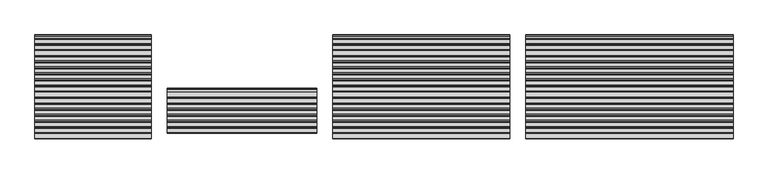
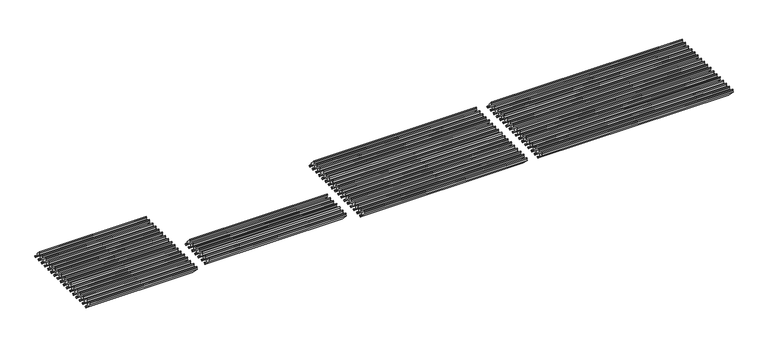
"""IFC4 building model written with IfcOpenShell, lengths in millimetres: proxy geometry, Renson_Camargue_Skye_Freestanding_Patio covers : Renson_Camargue_Skye_Freestanding_Patio covers."""

from ifc_helpers import new_model, si_unit, point, frame, frame_2d, origin, place, context, project, spatial, polyline, circle_curve, trimmed, segment, composite_curve, outline, extrude, source, transform, mapped, element, save


def generic_models_14f4a97e(model_context):
    return source(origin(), model_context, "Body", "SweptSolid", [
        extrude(outline(composite_curve([segment(polyline([(59.6564097, 2532.0835122), (77.5051073, 2553.3547618), (58.094889, 2574.7237457), (74.3098405, 2586.077577), (148.3535191, 2504.561844)]), True, "CONTINUOUS"), segment(trimmed(circle_curve(frame_2d((137.2502472, 2494.4763419)), 15.0), [point((148.3535191, 2504.561844))], [point((149.5375278, 2485.8726953))], False, "CARTESIAN"), True, "CONTINUOUS"), segment(polyline([(149.5375278, 2485.8726953), (138.3377521, 2469.8777579), (200.3763142, 2407.8391957), (214.5822882, 2417.7863257), (224.8658588, 2406.4649975), (206.8022706, 2384.9376513), (59.6564097, 2532.0835122)]), True, "CONTINUOUS")], self_intersect=False)), frame((-1079.7970473, 0.0, 0.0), z_axis=(1.0, 0.0, 0.0), x_axis=(0.0, 1.0, 0.0)), (0.0, 0.0, 1.0), 2107.0),
        extrude(outline(composite_curve([segment(polyline([(167.1672144, 2532.0835122), (185.0159121, 2553.3547618), (165.6056937, 2574.7237457), (181.8206452, 2586.077577), (255.8643239, 2504.561844)]), True, "CONTINUOUS"), segment(trimmed(circle_curve(frame_2d((244.761052, 2494.4763419)), 15.0), [point((255.8643239, 2504.561844))], [point((257.0483326, 2485.8726953))], False, "CARTESIAN"), True, "CONTINUOUS"), segment(polyline([(257.0483326, 2485.8726953), (245.8485568, 2469.8777579), (307.887119, 2407.8391957), (322.093093, 2417.7863257), (332.3766636, 2406.4649975), (314.3130754, 2384.9376513), (167.1672144, 2532.0835122)]), True, "CONTINUOUS")], self_intersect=False)), frame((-1079.7970473, 0.0, 0.0), z_axis=(1.0, 0.0, 0.0), x_axis=(0.0, 1.0, 0.0)), (0.0, 0.0, 1.0), 2107.0),
        extrude(outline(composite_curve([segment(polyline([(274.6780192, 2532.0835122), (292.5267169, 2553.3547618), (273.1164985, 2574.7237457), (289.33145, 2586.077577), (363.3751287, 2504.561844)]), True, "CONTINUOUS"), segment(trimmed(circle_curve(frame_2d((352.2718567, 2494.4763419)), 15.0), [point((363.3751287, 2504.561844))], [point((364.5591374, 2485.8726953))], False, "CARTESIAN"), True, "CONTINUOUS"), segment(polyline([(364.5591374, 2485.8726953), (353.3593616, 2469.8777579), (415.3979238, 2407.8391957), (429.6038978, 2417.7863257), (439.8874684, 2406.4649975), (421.8238801, 2384.9376513), (274.6780192, 2532.0835122)]), True, "CONTINUOUS")], self_intersect=False)), frame((-1079.7970473, 0.0, 0.0), z_axis=(1.0, 0.0, 0.0), x_axis=(0.0, 1.0, 0.0)), (0.0, 0.0, 1.0), 2107.0),
        extrude(outline(composite_curve([segment(polyline([(382.188824, 2532.0835122), (400.0375217, 2553.3547618), (380.6273033, 2574.7237457), (396.8422548, 2586.077577), (470.8859334, 2504.561844)]), True, "CONTINUOUS"), segment(trimmed(circle_curve(frame_2d((459.7826615, 2494.4763419)), 15.0), [point((470.8859334, 2504.561844))], [point((472.0699422, 2485.8726953))], False, "CARTESIAN"), True, "CONTINUOUS"), segment(polyline([(472.0699422, 2485.8726953), (460.8701664, 2469.8777579), (522.9087286, 2407.8391957), (537.1147026, 2417.7863257), (547.3982731, 2406.4649975), (529.3346849, 2384.9376513), (382.188824, 2532.0835122)]), True, "CONTINUOUS")], self_intersect=False)), frame((-1079.7970473, 0.0, 0.0), z_axis=(1.0, 0.0, 0.0), x_axis=(0.0, 1.0, 0.0)), (0.0, 0.0, 1.0), 2107.0),
        extrude(outline(composite_curve([segment(polyline([(489.6996288, 2532.0835122), (507.5483265, 2553.3547618), (488.1381081, 2574.7237457), (504.3530596, 2586.077577), (578.3967382, 2504.561844)]), True, "CONTINUOUS"), segment(trimmed(circle_curve(frame_2d((567.2934663, 2494.4763419)), 15.0), [point((578.3967382, 2504.561844))], [point((579.580747, 2485.8726953))], False, "CARTESIAN"), True, "CONTINUOUS"), segment(polyline([(579.580747, 2485.8726953), (568.3809712, 2469.8777579), (630.4195334, 2407.8391957), (644.6255074, 2417.7863257), (654.9090779, 2406.4649975), (636.8454897, 2384.9376513), (489.6996288, 2532.0835122)]), True, "CONTINUOUS")], self_intersect=False)), frame((-1079.7970473, 0.0, 0.0), z_axis=(1.0, 0.0, 0.0), x_axis=(0.0, 1.0, 0.0)), (0.0, 0.0, 1.0), 2107.0),
        extrude(outline(composite_curve([segment(polyline([(597.2104336, 2532.0835122), (615.0591312, 2553.3547618), (595.6489129, 2574.7237457), (611.8638644, 2586.077577), (685.907543, 2504.561844)]), True, "CONTINUOUS"), segment(trimmed(circle_curve(frame_2d((674.8042711, 2494.4763419)), 15.0), [point((685.907543, 2504.561844))], [point((687.0915518, 2485.8726953))], False, "CARTESIAN"), True, "CONTINUOUS"), segment(polyline([(687.0915518, 2485.8726953), (675.891776, 2469.8777579), (737.9303382, 2407.8391957), (752.1363121, 2417.7863257), (762.4198827, 2406.4649975), (744.3562945, 2384.9376513), (597.2104336, 2532.0835122)]), True, "CONTINUOUS")], self_intersect=False)), frame((-1079.7970473, 0.0, 0.0), z_axis=(1.0, 0.0, 0.0), x_axis=(0.0, 1.0, 0.0)), (0.0, 0.0, 1.0), 2107.0),
        extrude(outline(composite_curve([segment(polyline([(704.7212384, 2532.0835122), (722.569936, 2553.3547618), (703.1597177, 2574.7237457), (719.3746691, 2586.077577), (793.4183478, 2504.561844)]), True, "CONTINUOUS"), segment(trimmed(circle_curve(frame_2d((782.3150759, 2494.4763419)), 15.0), [point((793.4183478, 2504.561844))], [point((794.6023565, 2485.8726953))], False, "CARTESIAN"), True, "CONTINUOUS"), segment(polyline([(794.6023565, 2485.8726953), (783.4025807, 2469.8777579), (845.4411429, 2407.8391957), (859.6471169, 2417.7863257), (869.9306875, 2406.4649975), (851.8670993, 2384.9376513), (704.7212384, 2532.0835122)]), True, "CONTINUOUS")], self_intersect=False)), frame((-1079.7970473, 0.0, 0.0), z_axis=(1.0, 0.0, 0.0), x_axis=(0.0, 1.0, 0.0)), (0.0, 0.0, 1.0), 2107.0),
        extrude(outline(composite_curve([segment(polyline([(812.2320431, 2532.0835122), (830.0807408, 2553.3547618), (810.6705224, 2574.7237457), (826.8854739, 2586.077577), (900.9291526, 2504.561844)]), True, "CONTINUOUS"), segment(trimmed(circle_curve(frame_2d((889.8258807, 2494.4763419)), 15.0), [point((900.9291526, 2504.561844))], [point((902.1131613, 2485.8726953))], False, "CARTESIAN"), True, "CONTINUOUS"), segment(polyline([(902.1131613, 2485.8726953), (890.9133855, 2469.8777579), (952.9519477, 2407.8391957), (967.1579217, 2417.7863257), (977.4414923, 2406.4649975), (959.3779041, 2384.9376513), (812.2320431, 2532.0835122)]), True, "CONTINUOUS")], self_intersect=False)), frame((-1079.7970473, 0.0, 0.0), z_axis=(1.0, 0.0, 0.0), x_axis=(0.0, 1.0, 0.0)), (0.0, 0.0, 1.0), 2107.0),
        extrude(outline(composite_curve([segment(polyline([(919.7428479, 2532.0835122), (937.5915456, 2553.3547618), (918.1813272, 2574.7237457), (934.3962787, 2586.077577), (1008.4399574, 2504.561844)]), True, "CONTINUOUS"), segment(trimmed(circle_curve(frame_2d((997.3366854, 2494.4763419)), 15.0), [point((1008.4399574, 2504.561844))], [point((1009.6239661, 2485.8726953))], False, "CARTESIAN"), True, "CONTINUOUS"), segment(polyline([(1009.6239661, 2485.8726953), (998.4241903, 2469.8777579), (1060.4627525, 2407.8391957), (1074.6687265, 2417.7863257), (1084.9522971, 2406.4649975), (1066.8887088, 2384.9376513), (919.7428479, 2532.0835122)]), True, "CONTINUOUS")], self_intersect=False)), frame((-1079.7970473, 0.0, 0.0), z_axis=(1.0, 0.0, 0.0), x_axis=(0.0, 1.0, 0.0)), (0.0, 0.0, 1.0), 2107.0),
        extrude(outline(composite_curve([segment(polyline([(1027.2536527, 2532.0835122), (1045.1023504, 2553.3547618), (1025.692132, 2574.7237457), (1041.9070835, 2586.077577), (1115.9507621, 2504.561844)]), True, "CONTINUOUS"), segment(trimmed(circle_curve(frame_2d((1104.8474902, 2494.4763419)), 15.0), [point((1115.9507621, 2504.561844))], [point((1117.1347709, 2485.8726953))], False, "CARTESIAN"), True, "CONTINUOUS"), segment(polyline([(1117.1347709, 2485.8726953), (1105.9349951, 2469.8777579), (1167.9735573, 2407.8391957), (1182.1795313, 2417.7863257), (1192.4631018, 2406.4649975), (1174.3995136, 2384.9376513), (1027.2536527, 2532.0835122)]), True, "CONTINUOUS")], self_intersect=False)), frame((-1079.7970473, 0.0, 0.0), z_axis=(1.0, 0.0, 0.0), x_axis=(0.0, 1.0, 0.0)), (0.0, 0.0, 1.0), 2107.0),
        extrude(outline(composite_curve([segment(polyline([(1134.7644575, 2532.0835122), (1152.6131551, 2553.3547618), (1133.2029368, 2574.7237457), (1149.4178883, 2586.077577), (1223.4615669, 2504.561844)]), True, "CONTINUOUS"), segment(trimmed(circle_curve(frame_2d((1212.358295, 2494.4763419)), 15.0), [point((1223.4615669, 2504.561844))], [point((1224.6455757, 2485.8726953))], False, "CARTESIAN"), True, "CONTINUOUS"), segment(polyline([(1224.6455757, 2485.8726953), (1213.4457999, 2469.8777579), (1275.4843621, 2407.8391957), (1289.6903361, 2417.7863257), (1299.9739066, 2406.4649975), (1281.9103184, 2384.9376513), (1134.7644575, 2532.0835122)]), True, "CONTINUOUS")], self_intersect=False)), frame((-1079.7970473, 0.0, 0.0), z_axis=(1.0, 0.0, 0.0), x_axis=(0.0, 1.0, 0.0)), (0.0, 0.0, 1.0), 2107.0),
        extrude(outline(composite_curve([segment(polyline([(1242.2752623, 2532.0835122), (1260.1239599, 2553.3547618), (1240.7137416, 2574.7237457), (1256.9286931, 2586.077577), (1330.9723717, 2504.561844)]), True, "CONTINUOUS"), segment(trimmed(circle_curve(frame_2d((1319.8690998, 2494.4763419)), 15.0), [point((1330.9723717, 2504.561844))], [point((1332.1563804, 2485.8726953))], False, "CARTESIAN"), True, "CONTINUOUS"), segment(polyline([(1332.1563804, 2485.8726953), (1320.9566047, 2469.8777579), (1382.9951668, 2407.8391957), (1397.2011408, 2417.7863257), (1407.4847114, 2406.4649975), (1389.4211232, 2384.9376513), (1242.2752623, 2532.0835122)]), True, "CONTINUOUS")], self_intersect=False)), frame((-1079.7970473, 0.0, 0.0), z_axis=(1.0, 0.0, 0.0), x_axis=(0.0, 1.0, 0.0)), (0.0, 0.0, 1.0), 2107.0),
        extrude(outline(composite_curve([segment(polyline([(1349.786067, 2532.0835122), (1367.6347647, 2553.3547618), (1348.2245463, 2574.7237457), (1364.4394978, 2586.077577), (1438.4831765, 2504.561844)]), True, "CONTINUOUS"), segment(trimmed(circle_curve(frame_2d((1427.3799046, 2494.4763419)), 15.0), [point((1438.4831765, 2504.561844))], [point((1439.6671852, 2485.8726953))], False, "CARTESIAN"), True, "CONTINUOUS"), segment(polyline([(1439.6671852, 2485.8726953), (1428.4674094, 2469.8777579), (1490.5059716, 2407.8391957), (1504.7119456, 2417.7863257), (1514.9955162, 2406.4649975), (1496.931928, 2384.9376513), (1349.786067, 2532.0835122)]), True, "CONTINUOUS")], self_intersect=False)), frame((-1079.7970473, 0.0, 0.0), z_axis=(1.0, 0.0, 0.0), x_axis=(0.0, 1.0, 0.0)), (0.0, 0.0, 1.0), 2107.0),
        extrude(outline(composite_curve([segment(polyline([(1457.2968718, 2532.0835122), (1475.1455695, 2553.3547618), (1455.7353511, 2574.7237457), (1471.9503026, 2586.077577), (1545.9939813, 2504.561844)]), True, "CONTINUOUS"), segment(trimmed(circle_curve(frame_2d((1534.8907093, 2494.4763419)), 15.0), [point((1545.9939813, 2504.561844))], [point((1547.17799, 2485.8726953))], False, "CARTESIAN"), True, "CONTINUOUS"), segment(polyline([(1547.17799, 2485.8726953), (1535.9782142, 2469.8777579), (1598.0167764, 2407.8391957), (1612.2227504, 2417.7863257), (1622.506321, 2406.4649975), (1604.4427327, 2384.9376513), (1457.2968718, 2532.0835122)]), True, "CONTINUOUS")], self_intersect=False)), frame((-1079.7970473, 0.0, 0.0), z_axis=(1.0, 0.0, 0.0), x_axis=(0.0, 1.0, 0.0)), (0.0, 0.0, 1.0), 2107.0),
        extrude(outline(composite_curve([segment(polyline([(1564.8076766, 2532.0835122), (1582.6563743, 2553.3547618), (1563.2461559, 2574.7237457), (1579.4611074, 2586.077577), (1653.504786, 2504.561844)]), True, "CONTINUOUS"), segment(trimmed(circle_curve(frame_2d((1642.4015141, 2494.4763419)), 15.0), [point((1653.504786, 2504.561844))], [point((1654.6887948, 2485.8726953))], False, "CARTESIAN"), True, "CONTINUOUS"), segment(polyline([(1654.6887948, 2485.8726953), (1643.489019, 2469.8777579), (1705.5275812, 2407.8391957), (1719.7335552, 2417.7863257), (1730.0171257, 2406.4649975), (1711.9535375, 2384.9376513), (1564.8076766, 2532.0835122)]), True, "CONTINUOUS")], self_intersect=False)), frame((-1079.7970473, 0.0, 0.0), z_axis=(1.0, 0.0, 0.0), x_axis=(0.0, 1.0, 0.0)), (0.0, 0.0, 1.0), 2107.0),
        extrude(outline(composite_curve([segment(polyline([(-47.8543951, 2532.0835122), (-30.0056975, 2553.3547618), (-49.4159158, 2574.7237457), (-33.2009643, 2586.077577), (40.8427143, 2504.561844)]), True, "CONTINUOUS"), segment(trimmed(circle_curve(frame_2d((29.7394424, 2494.4763419)), 15.0), [point((40.8427143, 2504.561844))], [point((42.0267231, 2485.8726953))], False, "CARTESIAN"), True, "CONTINUOUS"), segment(polyline([(42.0267231, 2485.8726953), (30.8269473, 2469.8777579), (92.8655095, 2407.8391957), (107.0714835, 2417.7863257), (117.355054, 2406.4649975), (99.2914658, 2384.9376513), (-47.8543951, 2532.0835122)]), True, "CONTINUOUS")], self_intersect=False)), frame((-1079.7970473, 0.0, 0.0), z_axis=(1.0, 0.0, 0.0), x_axis=(0.0, 1.0, 0.0)), (0.0, 0.0, 1.0), 2107.0),
        extrude(outline(composite_curve([segment(polyline([(1672.3184814, 2532.0835122), (1690.1671791, 2553.3547618), (1670.7569607, 2574.7237457), (1686.9719122, 2586.077577), (1761.0155908, 2504.561844)]), True, "CONTINUOUS"), segment(trimmed(circle_curve(frame_2d((1749.9123189, 2494.4763419)), 15.0), [point((1761.0155908, 2504.561844))], [point((1762.1995996, 2485.8726953))], False, "CARTESIAN"), True, "CONTINUOUS"), segment(polyline([(1762.1995996, 2485.8726953), (1750.9998238, 2469.8777579), (1813.038386, 2407.8391957), (1827.24436, 2417.7863257), (1837.5279305, 2406.4649975), (1819.4643423, 2384.9376513), (1672.3184814, 2532.0835122)]), True, "CONTINUOUS")], self_intersect=False)), frame((-1079.7970473, 0.0, 0.0), z_axis=(1.0, 0.0, 0.0), x_axis=(0.0, 1.0, 0.0)), (0.0, 0.0, 1.0), 2107.0),
        extrude(outline(composite_curve([segment(polyline([(59.6564097, 2532.0835122), (77.5051073, 2553.3547618), (58.094889, 2574.7237457), (74.3098405, 2586.077577), (148.3535191, 2504.561844)]), True, "CONTINUOUS"), segment(trimmed(circle_curve(frame_2d((137.2502472, 2494.4763419)), 15.0), [point((148.3535191, 2504.561844))], [point((149.5375278, 2485.8726953))], False, "CARTESIAN"), True, "CONTINUOUS"), segment(polyline([(149.5375278, 2485.8726953), (138.3377521, 2469.8777579), (200.3763142, 2407.8391957), (214.5822882, 2417.7863257), (224.8658588, 2406.4649975), (206.8022706, 2384.9376513), (59.6564097, 2532.0835122)]), True, "CONTINUOUS")], self_intersect=False)), frame((7823.0, 0.0, 0.0), z_axis=(1.0, 0.0, 0.0), x_axis=(0.0, 1.0, 0.0)), (0.0, 0.0, 1.0), 3757.0),
        extrude(outline(composite_curve([segment(polyline([(167.1672144, 2532.0835122), (185.0159121, 2553.3547618), (165.6056937, 2574.7237457), (181.8206452, 2586.077577), (255.8643239, 2504.561844)]), True, "CONTINUOUS"), segment(trimmed(circle_curve(frame_2d((244.761052, 2494.4763419)), 15.0), [point((255.8643239, 2504.561844))], [point((257.0483326, 2485.8726953))], False, "CARTESIAN"), True, "CONTINUOUS"), segment(polyline([(257.0483326, 2485.8726953), (245.8485568, 2469.8777579), (307.887119, 2407.8391957), (322.093093, 2417.7863257), (332.3766636, 2406.4649975), (314.3130754, 2384.9376513), (167.1672144, 2532.0835122)]), True, "CONTINUOUS")], self_intersect=False)), frame((7823.0, 0.0, 0.0), z_axis=(1.0, 0.0, 0.0), x_axis=(0.0, 1.0, 0.0)), (0.0, 0.0, 1.0), 3757.0),
        extrude(outline(composite_curve([segment(polyline([(274.6780192, 2532.0835122), (292.5267169, 2553.3547618), (273.1164985, 2574.7237457), (289.33145, 2586.077577), (363.3751287, 2504.561844)]), True, "CONTINUOUS"), segment(trimmed(circle_curve(frame_2d((352.2718567, 2494.4763419)), 15.0), [point((363.3751287, 2504.561844))], [point((364.5591374, 2485.8726953))], False, "CARTESIAN"), True, "CONTINUOUS"), segment(polyline([(364.5591374, 2485.8726953), (353.3593616, 2469.8777579), (415.3979238, 2407.8391957), (429.6038978, 2417.7863257), (439.8874684, 2406.4649975), (421.8238801, 2384.9376513), (274.6780192, 2532.0835122)]), True, "CONTINUOUS")], self_intersect=False)), frame((7823.0, 0.0, 0.0), z_axis=(1.0, 0.0, 0.0), x_axis=(0.0, 1.0, 0.0)), (0.0, 0.0, 1.0), 3757.0),
        extrude(outline(composite_curve([segment(polyline([(382.188824, 2532.0835122), (400.0375217, 2553.3547618), (380.6273033, 2574.7237457), (396.8422548, 2586.077577), (470.8859334, 2504.561844)]), True, "CONTINUOUS"), segment(trimmed(circle_curve(frame_2d((459.7826615, 2494.4763419)), 15.0), [point((470.8859334, 2504.561844))], [point((472.0699422, 2485.8726953))], False, "CARTESIAN"), True, "CONTINUOUS"), segment(polyline([(472.0699422, 2485.8726953), (460.8701664, 2469.8777579), (522.9087286, 2407.8391957), (537.1147026, 2417.7863257), (547.3982731, 2406.4649975), (529.3346849, 2384.9376513), (382.188824, 2532.0835122)]), True, "CONTINUOUS")], self_intersect=False)), frame((7823.0, 0.0, 0.0), z_axis=(1.0, 0.0, 0.0), x_axis=(0.0, 1.0, 0.0)), (0.0, 0.0, 1.0), 3757.0),
        extrude(outline(composite_curve([segment(polyline([(489.6996288, 2532.0835122), (507.5483265, 2553.3547618), (488.1381081, 2574.7237457), (504.3530596, 2586.077577), (578.3967382, 2504.561844)]), True, "CONTINUOUS"), segment(trimmed(circle_curve(frame_2d((567.2934663, 2494.4763419)), 15.0), [point((578.3967382, 2504.561844))], [point((579.580747, 2485.8726953))], False, "CARTESIAN"), True, "CONTINUOUS"), segment(polyline([(579.580747, 2485.8726953), (568.3809712, 2469.8777579), (630.4195334, 2407.8391957), (644.6255074, 2417.7863257), (654.9090779, 2406.4649975), (636.8454897, 2384.9376513), (489.6996288, 2532.0835122)]), True, "CONTINUOUS")], self_intersect=False)), frame((7823.0, 0.0, 0.0), z_axis=(1.0, 0.0, 0.0), x_axis=(0.0, 1.0, 0.0)), (0.0, 0.0, 1.0), 3757.0),
        extrude(outline(composite_curve([segment(polyline([(597.2104336, 2532.0835122), (615.0591312, 2553.3547618), (595.6489129, 2574.7237457), (611.8638644, 2586.077577), (685.907543, 2504.561844)]), True, "CONTINUOUS"), segment(trimmed(circle_curve(frame_2d((674.8042711, 2494.4763419)), 15.0), [point((685.907543, 2504.561844))], [point((687.0915518, 2485.8726953))], False, "CARTESIAN"), True, "CONTINUOUS"), segment(polyline([(687.0915518, 2485.8726953), (675.891776, 2469.8777579), (737.9303382, 2407.8391957), (752.1363121, 2417.7863257), (762.4198827, 2406.4649975), (744.3562945, 2384.9376513), (597.2104336, 2532.0835122)]), True, "CONTINUOUS")], self_intersect=False)), frame((7823.0, 0.0, 0.0), z_axis=(1.0, 0.0, 0.0), x_axis=(0.0, 1.0, 0.0)), (0.0, 0.0, 1.0), 3757.0),
        extrude(outline(composite_curve([segment(polyline([(704.7212384, 2532.0835122), (722.569936, 2553.3547618), (703.1597177, 2574.7237457), (719.3746691, 2586.077577), (793.4183478, 2504.561844)]), True, "CONTINUOUS"), segment(trimmed(circle_curve(frame_2d((782.3150759, 2494.4763419)), 15.0), [point((793.4183478, 2504.561844))], [point((794.6023565, 2485.8726953))], False, "CARTESIAN"), True, "CONTINUOUS"), segment(polyline([(794.6023565, 2485.8726953), (783.4025807, 2469.8777579), (845.4411429, 2407.8391957), (859.6471169, 2417.7863257), (869.9306875, 2406.4649975), (851.8670993, 2384.9376513), (704.7212384, 2532.0835122)]), True, "CONTINUOUS")], self_intersect=False)), frame((7823.0, 0.0, 0.0), z_axis=(1.0, 0.0, 0.0), x_axis=(0.0, 1.0, 0.0)), (0.0, 0.0, 1.0), 3757.0),
        extrude(outline(composite_curve([segment(polyline([(812.2320431, 2532.0835122), (830.0807408, 2553.3547618), (810.6705224, 2574.7237457), (826.8854739, 2586.077577), (900.9291526, 2504.561844)]), True, "CONTINUOUS"), segment(trimmed(circle_curve(frame_2d((889.8258807, 2494.4763419)), 15.0), [point((900.9291526, 2504.561844))], [point((902.1131613, 2485.8726953))], False, "CARTESIAN"), True, "CONTINUOUS"), segment(polyline([(902.1131613, 2485.8726953), (890.9133855, 2469.8777579), (952.9519477, 2407.8391957), (967.1579217, 2417.7863257), (977.4414923, 2406.4649975), (959.3779041, 2384.9376513), (812.2320431, 2532.0835122)]), True, "CONTINUOUS")], self_intersect=False)), frame((7823.0, 0.0, 0.0), z_axis=(1.0, 0.0, 0.0), x_axis=(0.0, 1.0, 0.0)), (0.0, 0.0, 1.0), 3757.0),
        extrude(outline(composite_curve([segment(polyline([(919.7428479, 2532.0835122), (937.5915456, 2553.3547618), (918.1813272, 2574.7237457), (934.3962787, 2586.077577), (1008.4399574, 2504.561844)]), True, "CONTINUOUS"), segment(trimmed(circle_curve(frame_2d((997.3366854, 2494.4763419)), 15.0), [point((1008.4399574, 2504.561844))], [point((1009.6239661, 2485.8726953))], False, "CARTESIAN"), True, "CONTINUOUS"), segment(polyline([(1009.6239661, 2485.8726953), (998.4241903, 2469.8777579), (1060.4627525, 2407.8391957), (1074.6687265, 2417.7863257), (1084.9522971, 2406.4649975), (1066.8887088, 2384.9376513), (919.7428479, 2532.0835122)]), True, "CONTINUOUS")], self_intersect=False)), frame((7823.0, 0.0, 0.0), z_axis=(1.0, 0.0, 0.0), x_axis=(0.0, 1.0, 0.0)), (0.0, 0.0, 1.0), 3757.0),
        extrude(outline(composite_curve([segment(polyline([(1027.2536527, 2532.0835122), (1045.1023504, 2553.3547618), (1025.692132, 2574.7237457), (1041.9070835, 2586.077577), (1115.9507621, 2504.561844)]), True, "CONTINUOUS"), segment(trimmed(circle_curve(frame_2d((1104.8474902, 2494.4763419)), 15.0), [point((1115.9507621, 2504.561844))], [point((1117.1347709, 2485.8726953))], False, "CARTESIAN"), True, "CONTINUOUS"), segment(polyline([(1117.1347709, 2485.8726953), (1105.9349951, 2469.8777579), (1167.9735573, 2407.8391957), (1182.1795313, 2417.7863257), (1192.4631018, 2406.4649975), (1174.3995136, 2384.9376513), (1027.2536527, 2532.0835122)]), True, "CONTINUOUS")], self_intersect=False)), frame((7823.0, 0.0, 0.0), z_axis=(1.0, 0.0, 0.0), x_axis=(0.0, 1.0, 0.0)), (0.0, 0.0, 1.0), 3757.0),
        extrude(outline(composite_curve([segment(polyline([(1134.7644575, 2532.0835122), (1152.6131551, 2553.3547618), (1133.2029368, 2574.7237457), (1149.4178883, 2586.077577), (1223.4615669, 2504.561844)]), True, "CONTINUOUS"), segment(trimmed(circle_curve(frame_2d((1212.358295, 2494.4763419)), 15.0), [point((1223.4615669, 2504.561844))], [point((1224.6455757, 2485.8726953))], False, "CARTESIAN"), True, "CONTINUOUS"), segment(polyline([(1224.6455757, 2485.8726953), (1213.4457999, 2469.8777579), (1275.4843621, 2407.8391957), (1289.6903361, 2417.7863257), (1299.9739066, 2406.4649975), (1281.9103184, 2384.9376513), (1134.7644575, 2532.0835122)]), True, "CONTINUOUS")], self_intersect=False)), frame((7823.0, 0.0, 0.0), z_axis=(1.0, 0.0, 0.0), x_axis=(0.0, 1.0, 0.0)), (0.0, 0.0, 1.0), 3757.0),
        extrude(outline(composite_curve([segment(polyline([(1242.2752623, 2532.0835122), (1260.1239599, 2553.3547618), (1240.7137416, 2574.7237457), (1256.9286931, 2586.077577), (1330.9723717, 2504.561844)]), True, "CONTINUOUS"), segment(trimmed(circle_curve(frame_2d((1319.8690998, 2494.4763419)), 15.0), [point((1330.9723717, 2504.561844))], [point((1332.1563804, 2485.8726953))], False, "CARTESIAN"), True, "CONTINUOUS"), segment(polyline([(1332.1563804, 2485.8726953), (1320.9566047, 2469.8777579), (1382.9951668, 2407.8391957), (1397.2011408, 2417.7863257), (1407.4847114, 2406.4649975), (1389.4211232, 2384.9376513), (1242.2752623, 2532.0835122)]), True, "CONTINUOUS")], self_intersect=False)), frame((7823.0, 0.0, 0.0), z_axis=(1.0, 0.0, 0.0), x_axis=(0.0, 1.0, 0.0)), (0.0, 0.0, 1.0), 3757.0),
        extrude(outline(composite_curve([segment(polyline([(1349.786067, 2532.0835122), (1367.6347647, 2553.3547618), (1348.2245463, 2574.7237457), (1364.4394978, 2586.077577), (1438.4831765, 2504.561844)]), True, "CONTINUOUS"), segment(trimmed(circle_curve(frame_2d((1427.3799046, 2494.4763419)), 15.0), [point((1438.4831765, 2504.561844))], [point((1439.6671852, 2485.8726953))], False, "CARTESIAN"), True, "CONTINUOUS"), segment(polyline([(1439.6671852, 2485.8726953), (1428.4674094, 2469.8777579), (1490.5059716, 2407.8391957), (1504.7119456, 2417.7863257), (1514.9955162, 2406.4649975), (1496.931928, 2384.9376513), (1349.786067, 2532.0835122)]), True, "CONTINUOUS")], self_intersect=False)), frame((7823.0, 0.0, 0.0), z_axis=(1.0, 0.0, 0.0), x_axis=(0.0, 1.0, 0.0)), (0.0, 0.0, 1.0), 3757.0),
        extrude(outline(composite_curve([segment(polyline([(1457.2968718, 2532.0835122), (1475.1455695, 2553.3547618), (1455.7353511, 2574.7237457), (1471.9503026, 2586.077577), (1545.9939813, 2504.561844)]), True, "CONTINUOUS"), segment(trimmed(circle_curve(frame_2d((1534.8907093, 2494.4763419)), 15.0), [point((1545.9939813, 2504.561844))], [point((1547.17799, 2485.8726953))], False, "CARTESIAN"), True, "CONTINUOUS"), segment(polyline([(1547.17799, 2485.8726953), (1535.9782142, 2469.8777579), (1598.0167764, 2407.8391957), (1612.2227504, 2417.7863257), (1622.506321, 2406.4649975), (1604.4427327, 2384.9376513), (1457.2968718, 2532.0835122)]), True, "CONTINUOUS")], self_intersect=False)), frame((7823.0, 0.0, 0.0), z_axis=(1.0, 0.0, 0.0), x_axis=(0.0, 1.0, 0.0)), (0.0, 0.0, 1.0), 3757.0),
        extrude(outline(composite_curve([segment(polyline([(1564.8076766, 2532.0835122), (1582.6563743, 2553.3547618), (1563.2461559, 2574.7237457), (1579.4611074, 2586.077577), (1653.504786, 2504.561844)]), True, "CONTINUOUS"), segment(trimmed(circle_curve(frame_2d((1642.4015141, 2494.4763419)), 15.0), [point((1653.504786, 2504.561844))], [point((1654.6887948, 2485.8726953))], False, "CARTESIAN"), True, "CONTINUOUS"), segment(polyline([(1654.6887948, 2485.8726953), (1643.489019, 2469.8777579), (1705.5275812, 2407.8391957), (1719.7335552, 2417.7863257), (1730.0171257, 2406.4649975), (1711.9535375, 2384.9376513), (1564.8076766, 2532.0835122)]), True, "CONTINUOUS")], self_intersect=False)), frame((7823.0, 0.0, 0.0), z_axis=(1.0, 0.0, 0.0), x_axis=(0.0, 1.0, 0.0)), (0.0, 0.0, 1.0), 3757.0),
        extrude(outline(composite_curve([segment(polyline([(-47.8543951, 2532.0835122), (-30.0056975, 2553.3547618), (-49.4159158, 2574.7237457), (-33.2009643, 2586.077577), (40.8427143, 2504.561844)]), True, "CONTINUOUS"), segment(trimmed(circle_curve(frame_2d((29.7394424, 2494.4763419)), 15.0), [point((40.8427143, 2504.561844))], [point((42.0267231, 2485.8726953))], False, "CARTESIAN"), True, "CONTINUOUS"), segment(polyline([(42.0267231, 2485.8726953), (30.8269473, 2469.8777579), (92.8655095, 2407.8391957), (107.0714835, 2417.7863257), (117.355054, 2406.4649975), (99.2914658, 2384.9376513), (-47.8543951, 2532.0835122)]), True, "CONTINUOUS")], self_intersect=False)), frame((7823.0, 0.0, 0.0), z_axis=(1.0, 0.0, 0.0), x_axis=(0.0, 1.0, 0.0)), (0.0, 0.0, 1.0), 3757.0),
        extrude(outline(composite_curve([segment(polyline([(1672.3184814, 2532.0835122), (1690.1671791, 2553.3547618), (1670.7569607, 2574.7237457), (1686.9719122, 2586.077577), (1761.0155908, 2504.561844)]), True, "CONTINUOUS"), segment(trimmed(circle_curve(frame_2d((1749.9123189, 2494.4763419)), 15.0), [point((1761.0155908, 2504.561844))], [point((1762.1995996, 2485.8726953))], False, "CARTESIAN"), True, "CONTINUOUS"), segment(polyline([(1762.1995996, 2485.8726953), (1750.9998238, 2469.8777579), (1813.038386, 2407.8391957), (1827.24436, 2417.7863257), (1837.5279305, 2406.4649975), (1819.4643423, 2384.9376513), (1672.3184814, 2532.0835122)]), True, "CONTINUOUS")], self_intersect=False)), frame((7823.0, 0.0, 0.0), z_axis=(1.0, 0.0, 0.0), x_axis=(0.0, 1.0, 0.0)), (0.0, 0.0, 1.0), 3757.0),
        extrude(outline(composite_curve([segment(polyline([(59.6564097, 2532.0835122), (77.5051073, 2553.3547618), (58.094889, 2574.7237457), (74.3098405, 2586.077577), (148.3535191, 2504.561844)]), True, "CONTINUOUS"), segment(trimmed(circle_curve(frame_2d((137.2502472, 2494.4763419)), 15.0), [point((148.3535191, 2504.561844))], [point((149.5375278, 2485.8726953))], False, "CARTESIAN"), True, "CONTINUOUS"), segment(polyline([(149.5375278, 2485.8726953), (138.3377521, 2469.8777579), (200.3763142, 2407.8391957), (214.5822882, 2417.7863257), (224.8658588, 2406.4649975), (206.8022706, 2384.9376513), (59.6564097, 2532.0835122)]), True, "CONTINUOUS")], self_intersect=False)), frame((4323.0, 0.0, 0.0), z_axis=(1.0, 0.0, 0.0), x_axis=(0.0, 1.0, 0.0)), (0.0, 0.0, 1.0), 3205.0),
        extrude(outline(composite_curve([segment(polyline([(167.1672144, 2532.0835122), (185.0159121, 2553.3547618), (165.6056937, 2574.7237457), (181.8206452, 2586.077577), (255.8643239, 2504.561844)]), True, "CONTINUOUS"), segment(trimmed(circle_curve(frame_2d((244.761052, 2494.4763419)), 15.0), [point((255.8643239, 2504.561844))], [point((257.0483326, 2485.8726953))], False, "CARTESIAN"), True, "CONTINUOUS"), segment(polyline([(257.0483326, 2485.8726953), (245.8485568, 2469.8777579), (307.887119, 2407.8391957), (322.093093, 2417.7863257), (332.3766636, 2406.4649975), (314.3130754, 2384.9376513), (167.1672144, 2532.0835122)]), True, "CONTINUOUS")], self_intersect=False)), frame((4323.0, 0.0, 0.0), z_axis=(1.0, 0.0, 0.0), x_axis=(0.0, 1.0, 0.0)), (0.0, 0.0, 1.0), 3205.0),
        extrude(outline(composite_curve([segment(polyline([(274.6780192, 2532.0835122), (292.5267169, 2553.3547618), (273.1164985, 2574.7237457), (289.33145, 2586.077577), (363.3751287, 2504.561844)]), True, "CONTINUOUS"), segment(trimmed(circle_curve(frame_2d((352.2718567, 2494.4763419)), 15.0), [point((363.3751287, 2504.561844))], [point((364.5591374, 2485.8726953))], False, "CARTESIAN"), True, "CONTINUOUS"), segment(polyline([(364.5591374, 2485.8726953), (353.3593616, 2469.8777579), (415.3979238, 2407.8391957), (429.6038978, 2417.7863257), (439.8874684, 2406.4649975), (421.8238801, 2384.9376513), (274.6780192, 2532.0835122)]), True, "CONTINUOUS")], self_intersect=False)), frame((4323.0, 0.0, 0.0), z_axis=(1.0, 0.0, 0.0), x_axis=(0.0, 1.0, 0.0)), (0.0, 0.0, 1.0), 3205.0),
        extrude(outline(composite_curve([segment(polyline([(382.188824, 2532.0835122), (400.0375217, 2553.3547618), (380.6273033, 2574.7237457), (396.8422548, 2586.077577), (470.8859334, 2504.561844)]), True, "CONTINUOUS"), segment(trimmed(circle_curve(frame_2d((459.7826615, 2494.4763419)), 15.0), [point((470.8859334, 2504.561844))], [point((472.0699422, 2485.8726953))], False, "CARTESIAN"), True, "CONTINUOUS"), segment(polyline([(472.0699422, 2485.8726953), (460.8701664, 2469.8777579), (522.9087286, 2407.8391957), (537.1147026, 2417.7863257), (547.3982731, 2406.4649975), (529.3346849, 2384.9376513), (382.188824, 2532.0835122)]), True, "CONTINUOUS")], self_intersect=False)), frame((4323.0, 0.0, 0.0), z_axis=(1.0, 0.0, 0.0), x_axis=(0.0, 1.0, 0.0)), (0.0, 0.0, 1.0), 3205.0),
        extrude(outline(composite_curve([segment(polyline([(489.6996288, 2532.0835122), (507.5483265, 2553.3547618), (488.1381081, 2574.7237457), (504.3530596, 2586.077577), (578.3967382, 2504.561844)]), True, "CONTINUOUS"), segment(trimmed(circle_curve(frame_2d((567.2934663, 2494.4763419)), 15.0), [point((578.3967382, 2504.561844))], [point((579.580747, 2485.8726953))], False, "CARTESIAN"), True, "CONTINUOUS"), segment(polyline([(579.580747, 2485.8726953), (568.3809712, 2469.8777579), (630.4195334, 2407.8391957), (644.6255074, 2417.7863257), (654.9090779, 2406.4649975), (636.8454897, 2384.9376513), (489.6996288, 2532.0835122)]), True, "CONTINUOUS")], self_intersect=False)), frame((4323.0, 0.0, 0.0), z_axis=(1.0, 0.0, 0.0), x_axis=(0.0, 1.0, 0.0)), (0.0, 0.0, 1.0), 3205.0),
        extrude(outline(composite_curve([segment(polyline([(597.2104336, 2532.0835122), (615.0591312, 2553.3547618), (595.6489129, 2574.7237457), (611.8638644, 2586.077577), (685.907543, 2504.561844)]), True, "CONTINUOUS"), segment(trimmed(circle_curve(frame_2d((674.8042711, 2494.4763419)), 15.0), [point((685.907543, 2504.561844))], [point((687.0915518, 2485.8726953))], False, "CARTESIAN"), True, "CONTINUOUS"), segment(polyline([(687.0915518, 2485.8726953), (675.891776, 2469.8777579), (737.9303382, 2407.8391957), (752.1363121, 2417.7863257), (762.4198827, 2406.4649975), (744.3562945, 2384.9376513), (597.2104336, 2532.0835122)]), True, "CONTINUOUS")], self_intersect=False)), frame((4323.0, 0.0, 0.0), z_axis=(1.0, 0.0, 0.0), x_axis=(0.0, 1.0, 0.0)), (0.0, 0.0, 1.0), 3205.0),
        extrude(outline(composite_curve([segment(polyline([(704.7212384, 2532.0835122), (722.569936, 2553.3547618), (703.1597177, 2574.7237457), (719.3746691, 2586.077577), (793.4183478, 2504.561844)]), True, "CONTINUOUS"), segment(trimmed(circle_curve(frame_2d((782.3150759, 2494.4763419)), 15.0), [point((793.4183478, 2504.561844))], [point((794.6023565, 2485.8726953))], False, "CARTESIAN"), True, "CONTINUOUS"), segment(polyline([(794.6023565, 2485.8726953), (783.4025807, 2469.8777579), (845.4411429, 2407.8391957), (859.6471169, 2417.7863257), (869.9306875, 2406.4649975), (851.8670993, 2384.9376513), (704.7212384, 2532.0835122)]), True, "CONTINUOUS")], self_intersect=False)), frame((4323.0, 0.0, 0.0), z_axis=(1.0, 0.0, 0.0), x_axis=(0.0, 1.0, 0.0)), (0.0, 0.0, 1.0), 3205.0),
        extrude(outline(composite_curve([segment(polyline([(812.2320431, 2532.0835122), (830.0807408, 2553.3547618), (810.6705224, 2574.7237457), (826.8854739, 2586.077577), (900.9291526, 2504.561844)]), True, "CONTINUOUS"), segment(trimmed(circle_curve(frame_2d((889.8258807, 2494.4763419)), 15.0), [point((900.9291526, 2504.561844))], [point((902.1131613, 2485.8726953))], False, "CARTESIAN"), True, "CONTINUOUS"), segment(polyline([(902.1131613, 2485.8726953), (890.9133855, 2469.8777579), (952.9519477, 2407.8391957), (967.1579217, 2417.7863257), (977.4414923, 2406.4649975), (959.3779041, 2384.9376513), (812.2320431, 2532.0835122)]), True, "CONTINUOUS")], self_intersect=False)), frame((4323.0, 0.0, 0.0), z_axis=(1.0, 0.0, 0.0), x_axis=(0.0, 1.0, 0.0)), (0.0, 0.0, 1.0), 3205.0),
        extrude(outline(composite_curve([segment(polyline([(919.7428479, 2532.0835122), (937.5915456, 2553.3547618), (918.1813272, 2574.7237457), (934.3962787, 2586.077577), (1008.4399574, 2504.561844)]), True, "CONTINUOUS"), segment(trimmed(circle_curve(frame_2d((997.3366854, 2494.4763419)), 15.0), [point((1008.4399574, 2504.561844))], [point((1009.6239661, 2485.8726953))], False, "CARTESIAN"), True, "CONTINUOUS"), segment(polyline([(1009.6239661, 2485.8726953), (998.4241903, 2469.8777579), (1060.4627525, 2407.8391957), (1074.6687265, 2417.7863257), (1084.9522971, 2406.4649975), (1066.8887088, 2384.9376513), (919.7428479, 2532.0835122)]), True, "CONTINUOUS")], self_intersect=False)), frame((4323.0, 0.0, 0.0), z_axis=(1.0, 0.0, 0.0), x_axis=(0.0, 1.0, 0.0)), (0.0, 0.0, 1.0), 3205.0),
        extrude(outline(composite_curve([segment(polyline([(1027.2536527, 2532.0835122), (1045.1023504, 2553.3547618), (1025.692132, 2574.7237457), (1041.9070835, 2586.077577), (1115.9507621, 2504.561844)]), True, "CONTINUOUS"), segment(trimmed(circle_curve(frame_2d((1104.8474902, 2494.4763419)), 15.0), [point((1115.9507621, 2504.561844))], [point((1117.1347709, 2485.8726953))], False, "CARTESIAN"), True, "CONTINUOUS"), segment(polyline([(1117.1347709, 2485.8726953), (1105.9349951, 2469.8777579), (1167.9735573, 2407.8391957), (1182.1795313, 2417.7863257), (1192.4631018, 2406.4649975), (1174.3995136, 2384.9376513), (1027.2536527, 2532.0835122)]), True, "CONTINUOUS")], self_intersect=False)), frame((4323.0, 0.0, 0.0), z_axis=(1.0, 0.0, 0.0), x_axis=(0.0, 1.0, 0.0)), (0.0, 0.0, 1.0), 3205.0),
        extrude(outline(composite_curve([segment(polyline([(1134.7644575, 2532.0835122), (1152.6131551, 2553.3547618), (1133.2029368, 2574.7237457), (1149.4178883, 2586.077577), (1223.4615669, 2504.561844)]), True, "CONTINUOUS"), segment(trimmed(circle_curve(frame_2d((1212.358295, 2494.4763419)), 15.0), [point((1223.4615669, 2504.561844))], [point((1224.6455757, 2485.8726953))], False, "CARTESIAN"), True, "CONTINUOUS"), segment(polyline([(1224.6455757, 2485.8726953), (1213.4457999, 2469.8777579), (1275.4843621, 2407.8391957), (1289.6903361, 2417.7863257), (1299.9739066, 2406.4649975), (1281.9103184, 2384.9376513), (1134.7644575, 2532.0835122)]), True, "CONTINUOUS")], self_intersect=False)), frame((4323.0, 0.0, 0.0), z_axis=(1.0, 0.0, 0.0), x_axis=(0.0, 1.0, 0.0)), (0.0, 0.0, 1.0), 3205.0),
        extrude(outline(composite_curve([segment(polyline([(1242.2752623, 2532.0835122), (1260.1239599, 2553.3547618), (1240.7137416, 2574.7237457), (1256.9286931, 2586.077577), (1330.9723717, 2504.561844)]), True, "CONTINUOUS"), segment(trimmed(circle_curve(frame_2d((1319.8690998, 2494.4763419)), 15.0), [point((1330.9723717, 2504.561844))], [point((1332.1563804, 2485.8726953))], False, "CARTESIAN"), True, "CONTINUOUS"), segment(polyline([(1332.1563804, 2485.8726953), (1320.9566047, 2469.8777579), (1382.9951668, 2407.8391957), (1397.2011408, 2417.7863257), (1407.4847114, 2406.4649975), (1389.4211232, 2384.9376513), (1242.2752623, 2532.0835122)]), True, "CONTINUOUS")], self_intersect=False)), frame((4323.0, 0.0, 0.0), z_axis=(1.0, 0.0, 0.0), x_axis=(0.0, 1.0, 0.0)), (0.0, 0.0, 1.0), 3205.0),
        extrude(outline(composite_curve([segment(polyline([(1349.786067, 2532.0835122), (1367.6347647, 2553.3547618), (1348.2245463, 2574.7237457), (1364.4394978, 2586.077577), (1438.4831765, 2504.561844)]), True, "CONTINUOUS"), segment(trimmed(circle_curve(frame_2d((1427.3799046, 2494.4763419)), 15.0), [point((1438.4831765, 2504.561844))], [point((1439.6671852, 2485.8726953))], False, "CARTESIAN"), True, "CONTINUOUS"), segment(polyline([(1439.6671852, 2485.8726953), (1428.4674094, 2469.8777579), (1490.5059716, 2407.8391957), (1504.7119456, 2417.7863257), (1514.9955162, 2406.4649975), (1496.931928, 2384.9376513), (1349.786067, 2532.0835122)]), True, "CONTINUOUS")], self_intersect=False)), frame((4323.0, 0.0, 0.0), z_axis=(1.0, 0.0, 0.0), x_axis=(0.0, 1.0, 0.0)), (0.0, 0.0, 1.0), 3205.0),
        extrude(outline(composite_curve([segment(polyline([(1457.2968718, 2532.0835122), (1475.1455695, 2553.3547618), (1455.7353511, 2574.7237457), (1471.9503026, 2586.077577), (1545.9939813, 2504.561844)]), True, "CONTINUOUS"), segment(trimmed(circle_curve(frame_2d((1534.8907093, 2494.4763419)), 15.0), [point((1545.9939813, 2504.561844))], [point((1547.17799, 2485.8726953))], False, "CARTESIAN"), True, "CONTINUOUS"), segment(polyline([(1547.17799, 2485.8726953), (1535.9782142, 2469.8777579), (1598.0167764, 2407.8391957), (1612.2227504, 2417.7863257), (1622.506321, 2406.4649975), (1604.4427327, 2384.9376513), (1457.2968718, 2532.0835122)]), True, "CONTINUOUS")], self_intersect=False)), frame((4323.0, 0.0, 0.0), z_axis=(1.0, 0.0, 0.0), x_axis=(0.0, 1.0, 0.0)), (0.0, 0.0, 1.0), 3205.0),
        extrude(outline(composite_curve([segment(polyline([(1564.8076766, 2532.0835122), (1582.6563743, 2553.3547618), (1563.2461559, 2574.7237457), (1579.4611074, 2586.077577), (1653.504786, 2504.561844)]), True, "CONTINUOUS"), segment(trimmed(circle_curve(frame_2d((1642.4015141, 2494.4763419)), 15.0), [point((1653.504786, 2504.561844))], [point((1654.6887948, 2485.8726953))], False, "CARTESIAN"), True, "CONTINUOUS"), segment(polyline([(1654.6887948, 2485.8726953), (1643.489019, 2469.8777579), (1705.5275812, 2407.8391957), (1719.7335552, 2417.7863257), (1730.0171257, 2406.4649975), (1711.9535375, 2384.9376513), (1564.8076766, 2532.0835122)]), True, "CONTINUOUS")], self_intersect=False)), frame((4323.0, 0.0, 0.0), z_axis=(1.0, 0.0, 0.0), x_axis=(0.0, 1.0, 0.0)), (0.0, 0.0, 1.0), 3205.0),
        extrude(outline(composite_curve([segment(polyline([(-47.8543951, 2532.0835122), (-30.0056975, 2553.3547618), (-49.4159158, 2574.7237457), (-33.2009643, 2586.077577), (40.8427143, 2504.561844)]), True, "CONTINUOUS"), segment(trimmed(circle_curve(frame_2d((29.7394424, 2494.4763419)), 15.0), [point((40.8427143, 2504.561844))], [point((42.0267231, 2485.8726953))], False, "CARTESIAN"), True, "CONTINUOUS"), segment(polyline([(42.0267231, 2485.8726953), (30.8269473, 2469.8777579), (92.8655095, 2407.8391957), (107.0714835, 2417.7863257), (117.355054, 2406.4649975), (99.2914658, 2384.9376513), (-47.8543951, 2532.0835122)]), True, "CONTINUOUS")], self_intersect=False)), frame((4323.0, 0.0, 0.0), z_axis=(1.0, 0.0, 0.0), x_axis=(0.0, 1.0, 0.0)), (0.0, 0.0, 1.0), 3205.0),
        extrude(outline(composite_curve([segment(polyline([(1672.3184814, 2532.0835122), (1690.1671791, 2553.3547618), (1670.7569607, 2574.7237457), (1686.9719122, 2586.077577), (1761.0155908, 2504.561844)]), True, "CONTINUOUS"), segment(trimmed(circle_curve(frame_2d((1749.9123189, 2494.4763419)), 15.0), [point((1761.0155908, 2504.561844))], [point((1762.1995996, 2485.8726953))], False, "CARTESIAN"), True, "CONTINUOUS"), segment(polyline([(1762.1995996, 2485.8726953), (1750.9998238, 2469.8777579), (1813.038386, 2407.8391957), (1827.24436, 2417.7863257), (1837.5279305, 2406.4649975), (1819.4643423, 2384.9376513), (1672.3184814, 2532.0835122)]), True, "CONTINUOUS")], self_intersect=False)), frame((4323.0, 0.0, 0.0), z_axis=(1.0, 0.0, 0.0), x_axis=(0.0, 1.0, 0.0)), (0.0, 0.0, 1.0), 3205.0),
        extrude(outline(composite_curve([segment(polyline([(59.6564097, 2532.0835122), (77.5051073, 2553.3547618), (58.094889, 2574.7237457), (74.3098405, 2586.077577), (148.3535191, 2504.561844)]), True, "CONTINUOUS"), segment(trimmed(circle_curve(frame_2d((137.2502472, 2494.4763419)), 15.0), [point((148.3535191, 2504.561844))], [point((149.5375278, 2485.8726953))], False, "CARTESIAN"), True, "CONTINUOUS"), segment(polyline([(149.5375278, 2485.8726953), (138.3377521, 2469.8777579), (200.3763142, 2407.8391957), (214.5822882, 2417.7863257), (224.8658588, 2406.4649975), (206.8022706, 2384.9376513), (59.6564097, 2532.0835122)]), True, "CONTINUOUS")], self_intersect=False)), frame((1323.0, 0.0, 0.0), z_axis=(1.0, 0.0, 0.0), x_axis=(0.0, 1.0, 0.0)), (0.0, 0.0, 1.0), 2705.0),
        extrude(outline(composite_curve([segment(polyline([(167.1672144, 2532.0835122), (185.0159121, 2553.3547618), (165.6056937, 2574.7237457), (181.8206452, 2586.077577), (255.8643239, 2504.561844)]), True, "CONTINUOUS"), segment(trimmed(circle_curve(frame_2d((244.761052, 2494.4763419)), 15.0), [point((255.8643239, 2504.561844))], [point((257.0483326, 2485.8726953))], False, "CARTESIAN"), True, "CONTINUOUS"), segment(polyline([(257.0483326, 2485.8726953), (245.8485568, 2469.8777579), (307.887119, 2407.8391957), (322.093093, 2417.7863257), (332.3766636, 2406.4649975), (314.3130754, 2384.9376513), (167.1672144, 2532.0835122)]), True, "CONTINUOUS")], self_intersect=False)), frame((1323.0, 0.0, 0.0), z_axis=(1.0, 0.0, 0.0), x_axis=(0.0, 1.0, 0.0)), (0.0, 0.0, 1.0), 2705.0),
        extrude(outline(composite_curve([segment(polyline([(274.6780192, 2532.0835122), (292.5267169, 2553.3547618), (273.1164985, 2574.7237457), (289.33145, 2586.077577), (363.3751287, 2504.561844)]), True, "CONTINUOUS"), segment(trimmed(circle_curve(frame_2d((352.2718567, 2494.4763419)), 15.0), [point((363.3751287, 2504.561844))], [point((364.5591374, 2485.8726953))], False, "CARTESIAN"), True, "CONTINUOUS"), segment(polyline([(364.5591374, 2485.8726953), (353.3593616, 2469.8777579), (415.3979238, 2407.8391957), (429.6038978, 2417.7863257), (439.8874684, 2406.4649975), (421.8238801, 2384.9376513), (274.6780192, 2532.0835122)]), True, "CONTINUOUS")], self_intersect=False)), frame((1323.0, 0.0, 0.0), z_axis=(1.0, 0.0, 0.0), x_axis=(0.0, 1.0, 0.0)), (0.0, 0.0, 1.0), 2705.0),
        extrude(outline(composite_curve([segment(polyline([(382.188824, 2532.0835122), (400.0375217, 2553.3547618), (380.6273033, 2574.7237457), (396.8422548, 2586.077577), (470.8859334, 2504.561844)]), True, "CONTINUOUS"), segment(trimmed(circle_curve(frame_2d((459.7826615, 2494.4763419)), 15.0), [point((470.8859334, 2504.561844))], [point((472.0699422, 2485.8726953))], False, "CARTESIAN"), True, "CONTINUOUS"), segment(polyline([(472.0699422, 2485.8726953), (460.8701664, 2469.8777579), (522.9087286, 2407.8391957), (537.1147026, 2417.7863257), (547.3982731, 2406.4649975), (529.3346849, 2384.9376513), (382.188824, 2532.0835122)]), True, "CONTINUOUS")], self_intersect=False)), frame((1323.0, 0.0, 0.0), z_axis=(1.0, 0.0, 0.0), x_axis=(0.0, 1.0, 0.0)), (0.0, 0.0, 1.0), 2705.0),
        extrude(outline(composite_curve([segment(polyline([(489.6996288, 2532.0835122), (507.5483265, 2553.3547618), (488.1381081, 2574.7237457), (504.3530596, 2586.077577), (578.3967382, 2504.561844)]), True, "CONTINUOUS"), segment(trimmed(circle_curve(frame_2d((567.2934663, 2494.4763419)), 15.0), [point((578.3967382, 2504.561844))], [point((579.580747, 2485.8726953))], False, "CARTESIAN"), True, "CONTINUOUS"), segment(polyline([(579.580747, 2485.8726953), (568.3809712, 2469.8777579), (630.4195334, 2407.8391957), (644.6255074, 2417.7863257), (654.9090779, 2406.4649975), (636.8454897, 2384.9376513), (489.6996288, 2532.0835122)]), True, "CONTINUOUS")], self_intersect=False)), frame((1323.0, 0.0, 0.0), z_axis=(1.0, 0.0, 0.0), x_axis=(0.0, 1.0, 0.0)), (0.0, 0.0, 1.0), 2705.0),
        extrude(outline(composite_curve([segment(polyline([(597.2104336, 2532.0835122), (615.0591312, 2553.3547618), (595.6489129, 2574.7237457), (611.8638644, 2586.077577), (685.907543, 2504.561844)]), True, "CONTINUOUS"), segment(trimmed(circle_curve(frame_2d((674.8042711, 2494.4763419)), 15.0), [point((685.907543, 2504.561844))], [point((687.0915518, 2485.8726953))], False, "CARTESIAN"), True, "CONTINUOUS"), segment(polyline([(687.0915518, 2485.8726953), (675.891776, 2469.8777579), (737.9303382, 2407.8391957), (752.1363121, 2417.7863257), (762.4198827, 2406.4649975), (744.3562945, 2384.9376513), (597.2104336, 2532.0835122)]), True, "CONTINUOUS")], self_intersect=False)), frame((1323.0, 0.0, 0.0), z_axis=(1.0, 0.0, 0.0), x_axis=(0.0, 1.0, 0.0)), (0.0, 0.0, 1.0), 2705.0),
        extrude(outline(composite_curve([segment(polyline([(704.7212384, 2532.0835122), (722.569936, 2553.3547618), (703.1597177, 2574.7237457), (719.3746691, 2586.077577), (793.4183478, 2504.561844)]), True, "CONTINUOUS"), segment(trimmed(circle_curve(frame_2d((782.3150759, 2494.4763419)), 15.0), [point((793.4183478, 2504.561844))], [point((794.6023565, 2485.8726953))], False, "CARTESIAN"), True, "CONTINUOUS"), segment(polyline([(794.6023565, 2485.8726953), (783.4025807, 2469.8777579), (845.4411429, 2407.8391957), (859.6471169, 2417.7863257), (869.9306875, 2406.4649975), (851.8670993, 2384.9376513), (704.7212384, 2532.0835122)]), True, "CONTINUOUS")], self_intersect=False)), frame((1323.0, 0.0, 0.0), z_axis=(1.0, 0.0, 0.0), x_axis=(0.0, 1.0, 0.0)), (0.0, 0.0, 1.0), 2705.0),
    ])


if __name__ == "__main__":
    model = new_model("IFC4")
    model_context = context("Model", 3, world=origin())
    ifc_project = project(units=[si_unit("LENGTHUNIT", "METRE", prefix="MILLI")], contexts=[model_context])
    site = spatial("IfcSite", under=ifc_project)
    building = spatial("IfcBuilding", under=site)
    placement = place(None, origin())
    generic_models_shape = generic_models_14f4a97e(model_context)
    element("IfcBuildingElementProxy", 1, Name="Renson_Camargue_Skye_Freestanding_Patio covers : Renson_Camargue_Skye_Freestanding_Patio covers", ObjectType="Renson_Camargue_Skye_Freestanding_Patio covers : Renson_Camargue_Skye_Freestanding_Patio covers", at=placement, inside=building, context=model_context, shape_type="MappedRepresentation", body=[
        mapped(generic_models_shape, transform((0.0, 0.0, 0.0), x_axis=(1.0, 0.0, 0.0), y_axis=(0.0, 1.0, 0.0), z_axis=(0.0, 0.0, 1.0))),
    ])
    save(model, "model.ifc")
